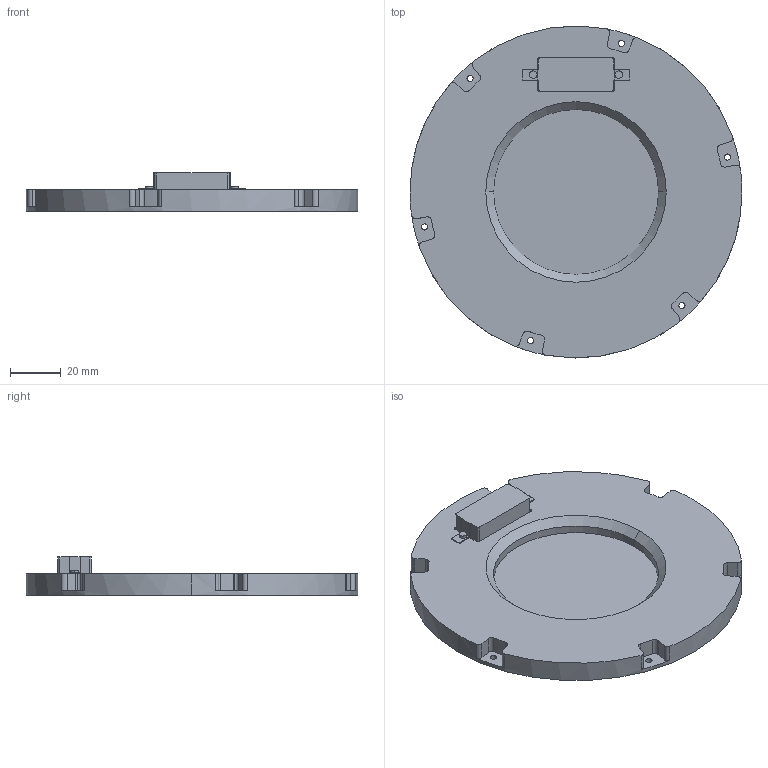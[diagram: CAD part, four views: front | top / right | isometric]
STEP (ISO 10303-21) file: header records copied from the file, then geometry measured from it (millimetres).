
FILE_DESCRIPTION (( 'STEP AP214' ), '1' );
FILE_NAME ('NS65B Dumb.STEP', '2021-06-16T23:05:48', ( '' ), ( '' ), 'SwSTEP 2.0', 'SolidWorks 2020', '' );
FILE_SCHEMA (( 'AUTOMOTIVE_DESIGN' ));
Length unit declared in the file: inch
Products named in the file (1): NS65B Dumb
Bounding box: 130.81 x 130.81 x 15.06 mm (x, y, z)
Volume: 85318.3 mm3; surface area: 32689.8 mm2
Topology: 1 solids, 1 shells, 114 faces, 324 edges, 214 vertices
Faces by surface type: cylinder 66, plane 46, cone 2
Entity records: 4813 total; most frequent: DIRECTION 700, CARTESIAN_POINT 653, ORIENTED_EDGE 648, EDGE_CURVE 324, AXIS2_PLACEMENT_3D 261, VERTEX_POINT 214, VECTOR 178, LINE 178
